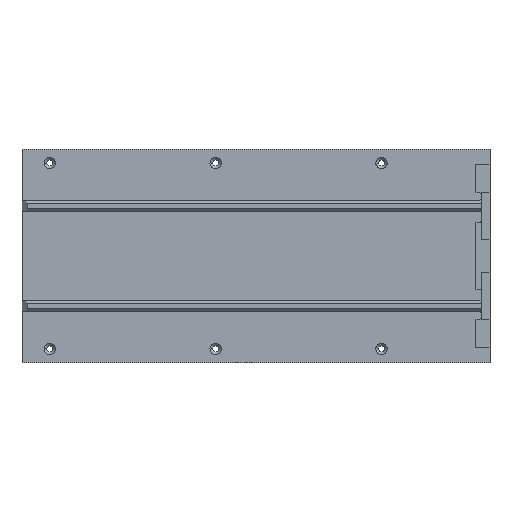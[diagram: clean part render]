
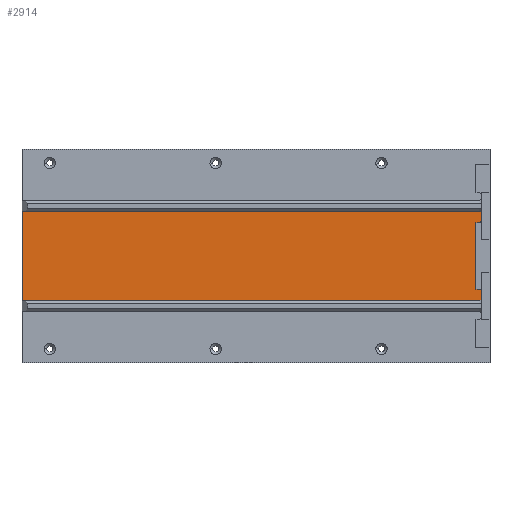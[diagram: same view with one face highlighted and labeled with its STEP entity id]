
A CAD part, top view. The second image highlights one B-rep face of the part: STEP entity #2914.
In plain terms, the highlighted planar face has unit normal (0, 0, 1).
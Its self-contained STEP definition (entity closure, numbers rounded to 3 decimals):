
#6 = FACE_OUTER_BOUND ( 'NONE', #2156, .T. ) ;
#30 = VERTEX_POINT ( 'NONE', #4251 ) ;
#118 = CARTESIAN_POINT ( 'NONE',  ( -45.343, 5.087, 6.5 ) ) ;
#154 = ORIENTED_EDGE ( 'NONE', *, *, #1069, .T. ) ;
#165 = LINE ( 'NONE', #1227, #3376 ) ;
#173 = DIRECTION ( 'NONE',  ( 0., 0., -1. ) ) ;
#223 = DIRECTION ( 'NONE',  ( 0., 1., 0. ) ) ;
#252 = VECTOR ( 'NONE', #2958, 1000. ) ;
#295 = EDGE_CURVE ( 'NONE', #5027, #30, #2807, .T. ) ;
#372 = DIRECTION ( 'NONE',  ( 0., 0., 1. ) ) ;
#377 = LINE ( 'NONE', #5177, #252 ) ;
#491 = AXIS2_PLACEMENT_3D ( 'NONE', #4200, #173, #3825 ) ;
#519 = VERTEX_POINT ( 'NONE', #2363 ) ;
#765 = VECTOR ( 'NONE', #4078, 1000. ) ;
#794 = VERTEX_POINT ( 'NONE', #3198 ) ;
#843 = ORIENTED_EDGE ( 'NONE', *, *, #4055, .T. ) ;
#890 = CIRCLE ( 'NONE', #4031, 1. ) ;
#926 = VECTOR ( 'NONE', #1481, 1000. ) ;
#1029 = CARTESIAN_POINT ( 'NONE',  ( -46.343, -26.213, 6.5 ) ) ;
#1037 = DIRECTION ( 'NONE',  ( -1., 0., 0. ) ) ;
#1069 = EDGE_CURVE ( 'NONE', #4561, #4858, #3872, .T. ) ;
#1227 = CARTESIAN_POINT ( 'NONE',  ( -206.043, 0., 6.5 ) ) ;
#1249 = DIRECTION ( 'NONE',  ( -1., 0., 0. ) ) ;
#1370 = ORIENTED_EDGE ( 'NONE', *, *, #4785, .T. ) ;
#1449 = ORIENTED_EDGE ( 'NONE', *, *, #2080, .T. ) ;
#1481 = DIRECTION ( 'NONE',  ( 0., 1., 0. ) ) ;
#1525 = CIRCLE ( 'NONE', #2856, 1. ) ;
#1529 = ORIENTED_EDGE ( 'NONE', *, *, #2830, .T. ) ;
#1629 = CARTESIAN_POINT ( 'NONE',  ( -47.343, 1.087, 6.5 ) ) ;
#1647 = DIRECTION ( 'NONE',  ( -1., 0., 0. ) ) ;
#1664 = CARTESIAN_POINT ( 'NONE',  ( -46.343, -25.213, 6.5 ) ) ;
#1674 = CARTESIAN_POINT ( 'NONE',  ( -45.343, 4.087, 6.5 ) ) ;
#1682 = AXIS2_PLACEMENT_3D ( 'NONE', #2197, #4203, #1037 ) ;
#1818 = ORIENTED_EDGE ( 'NONE', *, *, #4468, .F. ) ;
#1820 = AXIS2_PLACEMENT_3D ( 'NONE', #4021, #372, #2387 ) ;
#1832 = EDGE_CURVE ( 'NONE', #794, #1876, #3724, .T. ) ;
#1876 = VERTEX_POINT ( 'NONE', #1674 ) ;
#1917 = CARTESIAN_POINT ( 'NONE',  ( -46.343, -22.213, 6.5 ) ) ;
#1957 = VECTOR ( 'NONE', #4618, 1000. ) ;
#2080 = EDGE_CURVE ( 'NONE', #3016, #4561, #4082, .T. ) ;
#2118 = VECTOR ( 'NONE', #3633, 1000. ) ;
#2156 = EDGE_LOOP ( 'NONE', ( #4838, #1370, #4870, #4367, #1449, #154, #843, #1818, #1529, #4183, #2187, #2260 ) ) ;
#2186 = CARTESIAN_POINT ( 'NONE',  ( -47.343, 1.087, 6.5 ) ) ;
#2187 = ORIENTED_EDGE ( 'NONE', *, *, #1832, .T. ) ;
#2197 = CARTESIAN_POINT ( 'NONE',  ( -46.343, -23.213, 6.5 ) ) ;
#2235 = LINE ( 'NONE', #2186, #765 ) ;
#2260 = ORIENTED_EDGE ( 'NONE', *, *, #3493, .T. ) ;
#2280 = EDGE_CURVE ( 'NONE', #5027, #3016, #1525, .T. ) ;
#2363 = CARTESIAN_POINT ( 'NONE',  ( -47.343, -22.213, 6.5 ) ) ;
#2387 = DIRECTION ( 'NONE',  ( -1., 0., 0. ) ) ;
#2575 = CARTESIAN_POINT ( 'NONE',  ( -46.343, 5.087, 6.5 ) ) ;
#2618 = VERTEX_POINT ( 'NONE', #1629 ) ;
#2807 = LINE ( 'NONE', #3008, #1957 ) ;
#2830 = EDGE_CURVE ( 'NONE', #2618, #4728, #2235, .T. ) ;
#2856 = AXIS2_PLACEMENT_3D ( 'NONE', #1664, #4467, #1249 ) ;
#2885 = CARTESIAN_POINT ( 'NONE',  ( -45.343, -25.213, 6.5 ) ) ;
#2894 = VERTEX_POINT ( 'NONE', #3144 ) ;
#2914 = ADVANCED_FACE ( 'NONE', ( #6 ), #4388, .F. ) ;
#2958 = DIRECTION ( 'NONE',  ( 0., -1., 0. ) ) ;
#2976 = CARTESIAN_POINT ( 'NONE',  ( -204.443, 5.087, 6.5 ) ) ;
#2988 = LINE ( 'NONE', #2976, #2118 ) ;
#3008 = CARTESIAN_POINT ( 'NONE',  ( -204.443, -26.213, 6.5 ) ) ;
#3016 = VERTEX_POINT ( 'NONE', #2885 ) ;
#3020 = DIRECTION ( 'NONE',  ( -1., 0., 0. ) ) ;
#3144 = CARTESIAN_POINT ( 'NONE',  ( -206.043, 5.087, 6.5 ) ) ;
#3198 = CARTESIAN_POINT ( 'NONE',  ( -45.343, 2.087, 6.5 ) ) ;
#3366 = LINE ( 'NONE', #3769, #4214 ) ;
#3376 = VECTOR ( 'NONE', #5068, 1000. ) ;
#3493 = EDGE_CURVE ( 'NONE', #1876, #5126, #3822, .T. ) ;
#3633 = DIRECTION ( 'NONE',  ( 1., 0., 0. ) ) ;
#3724 = LINE ( 'NONE', #118, #5000 ) ;
#3769 = CARTESIAN_POINT ( 'NONE',  ( -47.343, -22.213, 6.5 ) ) ;
#3822 = CIRCLE ( 'NONE', #1820, 1. ) ;
#3825 = DIRECTION ( 'NONE',  ( -1., 0., 0. ) ) ;
#3872 = CIRCLE ( 'NONE', #1682, 1. ) ;
#4021 = CARTESIAN_POINT ( 'NONE',  ( -46.343, 4.087, 6.5 ) ) ;
#4031 = AXIS2_PLACEMENT_3D ( 'NONE', #4255, #4186, #1647 ) ;
#4055 = EDGE_CURVE ( 'NONE', #4858, #519, #3366, .T. ) ;
#4078 = DIRECTION ( 'NONE',  ( 1., 0., 0. ) ) ;
#4082 = LINE ( 'NONE', #4654, #926 ) ;
#4183 = ORIENTED_EDGE ( 'NONE', *, *, #4486, .T. ) ;
#4186 = DIRECTION ( 'NONE',  ( 0., 0., 1. ) ) ;
#4200 = CARTESIAN_POINT ( 'NONE',  ( 0., 0., 6.5 ) ) ;
#4203 = DIRECTION ( 'NONE',  ( 0., 0., 1. ) ) ;
#4214 = VECTOR ( 'NONE', #3020, 1000. ) ;
#4227 = CARTESIAN_POINT ( 'NONE',  ( -45.343, -23.213, 6.5 ) ) ;
#4234 = CARTESIAN_POINT ( 'NONE',  ( -46.343, 1.087, 6.5 ) ) ;
#4251 = CARTESIAN_POINT ( 'NONE',  ( -206.043, -26.213, 6.5 ) ) ;
#4255 = CARTESIAN_POINT ( 'NONE',  ( -46.343, 2.087, 6.5 ) ) ;
#4367 = ORIENTED_EDGE ( 'NONE', *, *, #2280, .T. ) ;
#4388 = PLANE ( 'NONE',  #491 ) ;
#4467 = DIRECTION ( 'NONE',  ( 0., 0., 1. ) ) ;
#4468 = EDGE_CURVE ( 'NONE', #2618, #519, #377, .T. ) ;
#4486 = EDGE_CURVE ( 'NONE', #4728, #794, #890, .T. ) ;
#4561 = VERTEX_POINT ( 'NONE', #4227 ) ;
#4618 = DIRECTION ( 'NONE',  ( -1., 0., 0. ) ) ;
#4644 = EDGE_CURVE ( 'NONE', #2894, #5126, #2988, .T. ) ;
#4654 = CARTESIAN_POINT ( 'NONE',  ( -45.343, -26.213, 6.5 ) ) ;
#4728 = VERTEX_POINT ( 'NONE', #4234 ) ;
#4785 = EDGE_CURVE ( 'NONE', #2894, #30, #165, .T. ) ;
#4838 = ORIENTED_EDGE ( 'NONE', *, *, #4644, .F. ) ;
#4858 = VERTEX_POINT ( 'NONE', #1917 ) ;
#4870 = ORIENTED_EDGE ( 'NONE', *, *, #295, .F. ) ;
#5000 = VECTOR ( 'NONE', #223, 1000. ) ;
#5027 = VERTEX_POINT ( 'NONE', #1029 ) ;
#5068 = DIRECTION ( 'NONE',  ( 0., -1., 0. ) ) ;
#5126 = VERTEX_POINT ( 'NONE', #2575 ) ;
#5177 = CARTESIAN_POINT ( 'NONE',  ( -47.343, -42.663, 6.5 ) ) ;
